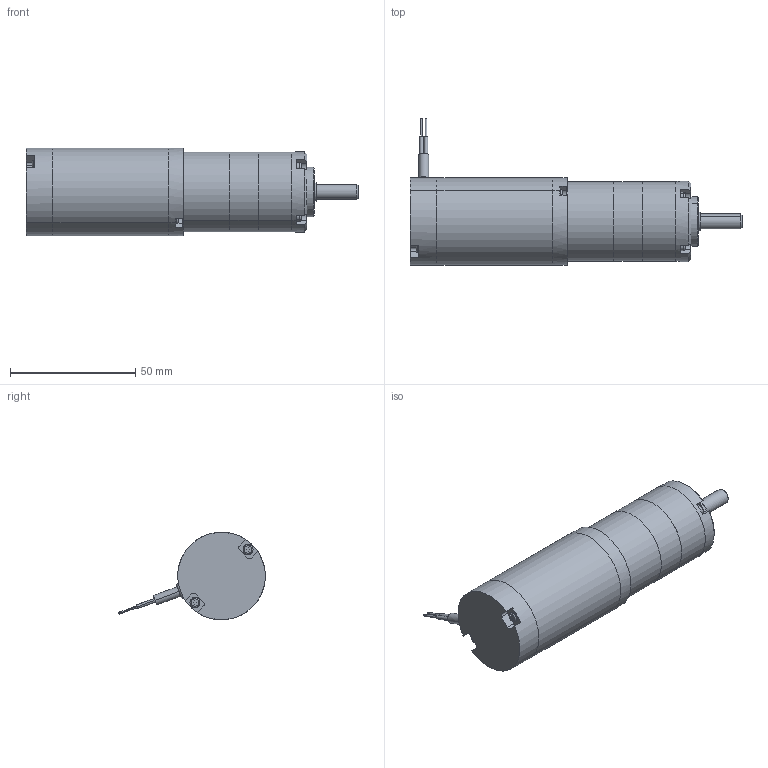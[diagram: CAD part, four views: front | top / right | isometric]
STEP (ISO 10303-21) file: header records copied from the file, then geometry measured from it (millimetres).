
FILE_DESCRIPTION (( 'STEP AP203' ), '1' );
FILE_NAME ('s14247gp2.step', '2018-12-07T19:52:30', ( '' ), ( '' ), 'SwSTEP 2.0', 'SolidWorks 2017', '' );
FILE_SCHEMA (( 'CONFIG_CONTROL_DESIGN' ));
Length unit declared in the file: inch
Products named in the file (1): s14247gp2
Bounding box: 132.41 x 58.45 x 34.91 mm (x, y, z)
Volume: 99998.1 mm3; surface area: 26464.4 mm2
Topology: 14 solids, 14 shells, 324 faces, 774 edges, 498 vertices
Faces by surface type: plane 175, cylinder 105, torus 25, cone 19
Entity records: 9505 total; most frequent: CARTESIAN_POINT 1693, DIRECTION 1678, ORIENTED_EDGE 1532, EDGE_CURVE 766, AXIS2_PLACEMENT_3D 603, VERTEX_POINT 498, LINE 472, VECTOR 472
